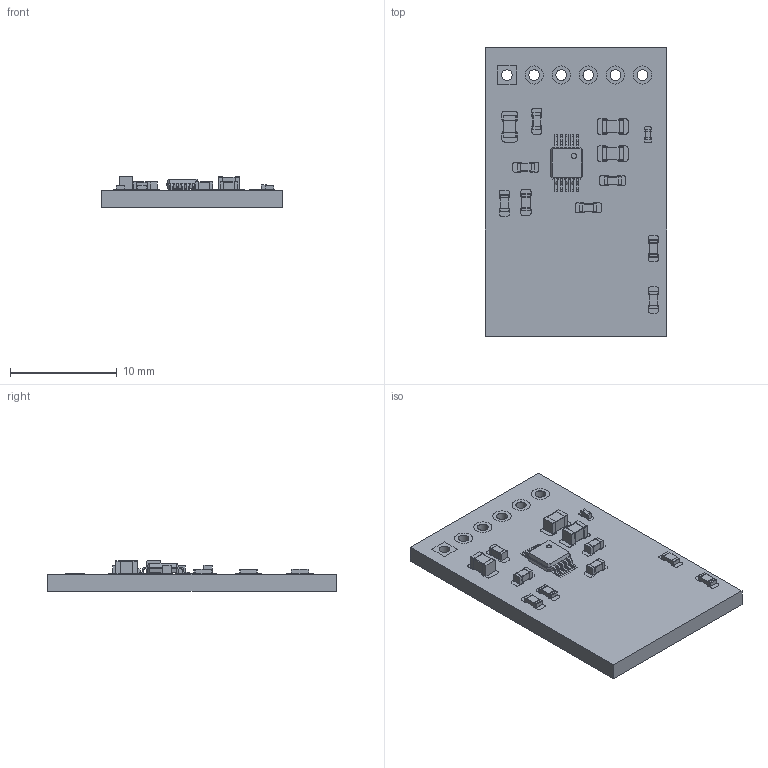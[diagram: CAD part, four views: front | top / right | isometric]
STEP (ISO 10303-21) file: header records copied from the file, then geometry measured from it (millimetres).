
FILE_DESCRIPTION(('FreeCAD Model'),'2;1');
FILE_NAME('Open CASCADE Shape Model','2023-08-13T16:51:16',(''),(''), 'Open CASCADE STEP processor 7.6','FreeCAD','Unknown');
FILE_SCHEMA(('AUTOMOTIVE_DESIGN { 1 0 10303 214 1 1 1 1 }'));
Length unit declared in the file: millimetre
Products named in the file (12): cjmcu; Board_Geoms_6f06; Pcb_6f06; topPads_6f06_cut; botPads_6f06; Step_Models_6f06; Top_6f06; C2_C_0603_1608Metric_aa487ab830dc; C6_C_0805_2012Metric_9b1d37723402; R3_R_0603_1608Metric_2e9459935b9b; U1_TSSOP_10_3x3mm_P05mm_9d536a53b2d6; C8_C_0402_1005Metric_2085f331ea60
Assembly tree (19 placements, depth 4):
  cjmcu
    Board_Geoms_6f06
      Pcb_6f06
      topPads_6f06_cut
      botPads_6f06
    Step_Models_6f06
      Top_6f06
        C2_C_0603_1608Metric_aa487ab830dc  x4
        C6_C_0805_2012Metric_9b1d37723402  x3
        R3_R_0603_1608Metric_2e9459935b9b  x4
        U1_TSSOP_10_3x3mm_P05mm_9d536a53b2d6
        C8_C_0402_1005Metric_2085f331ea60
Bounding box: 17 x 27 x 2.87 mm (x, y, z)
Volume: 749.5 mm3; surface area: 1244.1 mm2
Topology: 14 solids, 60 shells, 572 faces, 1641 edges, 1160 vertices
Faces by surface type: plane 363, cylinder 175, bspline 34
Full cylindrical faces by diameter (mm): 0.5 x1, 1 x6
Entity records: 14998 total; most frequent: CARTESIAN_POINT 2373, DIRECTION 2041, ORIENTED_EDGE 1876, EDGE_CURVE 1077, VERTEX_POINT 788, LINE 729, VECTOR 729, AXIS2_PLACEMENT_3D 656
